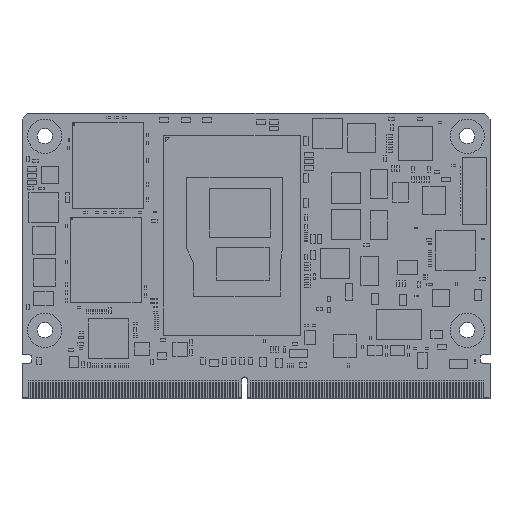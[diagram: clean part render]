
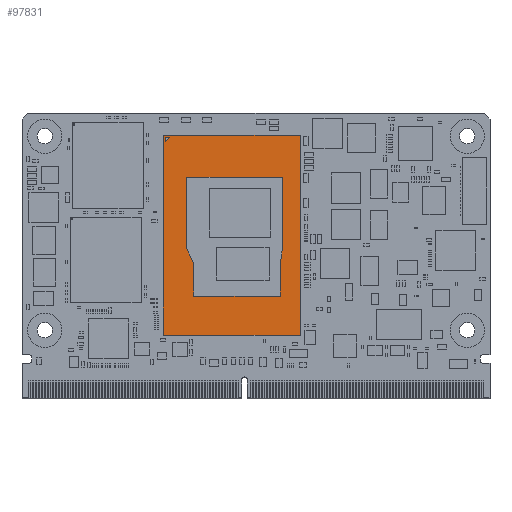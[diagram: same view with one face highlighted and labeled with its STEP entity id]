
A CAD part, top view. The second image highlights one B-rep face of the part: STEP entity #97831.
In plain terms, the highlighted planar face has unit normal (0, 0, 1) as drawn and (0, 1, 0) by its records, which use the part's own axes.
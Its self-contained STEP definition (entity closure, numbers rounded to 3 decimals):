
#458 = VERTEX_POINT ( 'NONE', #76636 ) ;
#10595 = EDGE_CURVE ( 'NONE', #97570, #41177, #155508, .T. ) ;
#10703 = EDGE_LOOP ( 'NONE', ( #120518, #141115, #51080, #103640 ) ) ;
#11290 = DIRECTION ( 'NONE',  ( 0., 1., 0. ) ) ;
#12118 = DIRECTION ( 'NONE',  ( 1., 0., 0. ) ) ;
#18675 = CARTESIAN_POINT ( 'NONE',  ( 0., 1.081, 17.5 ) ) ;
#19777 = VECTOR ( 'NONE', #78631, 1000. ) ;
#20832 = VERTEX_POINT ( 'NONE', #174696 ) ;
#35604 = DIRECTION ( 'NONE',  ( 0., 0., -1. ) ) ;
#35785 = EDGE_CURVE ( 'NONE', #89963, #146432, #194468, .T. ) ;
#36066 = ORIENTED_EDGE ( 'NONE', *, *, #72596, .F. ) ;
#41177 = VERTEX_POINT ( 'NONE', #76647 ) ;
#46940 = CARTESIAN_POINT ( 'NONE',  ( 11.7, 1.081, 17.2 ) ) ;
#49096 = CARTESIAN_POINT ( 'NONE',  ( 11.7, 1.081, 16.45 ) ) ;
#51080 = ORIENTED_EDGE ( 'NONE', *, *, #10595, .T. ) ;
#51876 = CARTESIAN_POINT ( 'NONE',  ( -12., 1.081, 17.5 ) ) ;
#54273 = DIRECTION ( 'NONE',  ( -1., 0., 0. ) ) ;
#54393 = VECTOR ( 'NONE', #109602, 1000. ) ;
#54915 = CARTESIAN_POINT ( 'NONE',  ( -12., 1.081, 0. ) ) ;
#56054 = CARTESIAN_POINT ( 'NONE',  ( 10.95, 1.081, 17.2 ) ) ;
#62989 = VECTOR ( 'NONE', #12118, 1000. ) ;
#63224 = VECTOR ( 'NONE', #35604, 1000. ) ;
#69228 = AXIS2_PLACEMENT_3D ( 'NONE', #252320, #11290, #148126 ) ;
#70486 = LINE ( 'NONE', #56054, #54393 ) ;
#71218 = FACE_BOUND ( 'NONE', #201128, .T. ) ;
#72596 = EDGE_CURVE ( 'NONE', #146432, #20832, #153274, .T. ) ;
#73588 = EDGE_CURVE ( 'NONE', #458, #129087, #216428, .T. ) ;
#76636 = CARTESIAN_POINT ( 'NONE',  ( -12., 1.081, -17.5 ) ) ;
#76647 = CARTESIAN_POINT ( 'NONE',  ( 12., 1.081, -17.5 ) ) ;
#78631 = DIRECTION ( 'NONE',  ( 1., 0., 0. ) ) ;
#89963 = VERTEX_POINT ( 'NONE', #122498 ) ;
#90325 = CARTESIAN_POINT ( 'NONE',  ( 11.7, 1.081, 17.2 ) ) ;
#90860 = LINE ( 'NONE', #167764, #170730 ) ;
#97570 = VERTEX_POINT ( 'NONE', #196531 ) ;
#97831 = ADVANCED_FACE ( 'NONE', ( #109039, #71218 ), #191091, .T. ) ;
#98371 = EDGE_CURVE ( 'NONE', #129087, #97570, #233729, .T. ) ;
#103640 = ORIENTED_EDGE ( 'NONE', *, *, #106396, .T. ) ;
#106396 = EDGE_CURVE ( 'NONE', #41177, #458, #90860, .T. ) ;
#109039 = FACE_OUTER_BOUND ( 'NONE', #10703, .T. ) ;
#109602 = DIRECTION ( 'NONE',  ( -0.707, 0., 0.707 ) ) ;
#120518 = ORIENTED_EDGE ( 'NONE', *, *, #73588, .T. ) ;
#122498 = CARTESIAN_POINT ( 'NONE',  ( 10.95, 1.081, 17.2 ) ) ;
#129087 = VERTEX_POINT ( 'NONE', #51876 ) ;
#141115 = ORIENTED_EDGE ( 'NONE', *, *, #98371, .T. ) ;
#146432 = VERTEX_POINT ( 'NONE', #46940 ) ;
#148003 = ORIENTED_EDGE ( 'NONE', *, *, #35785, .F. ) ;
#148126 = DIRECTION ( 'NONE',  ( 0., 0., 1. ) ) ;
#153274 = LINE ( 'NONE', #49096, #192597 ) ;
#155508 = LINE ( 'NONE', #195891, #63224 ) ;
#167764 = CARTESIAN_POINT ( 'NONE',  ( 0., 1.081, -17.5 ) ) ;
#170730 = VECTOR ( 'NONE', #54273, 1000. ) ;
#174696 = CARTESIAN_POINT ( 'NONE',  ( 11.7, 1.081, 16.45 ) ) ;
#191091 = PLANE ( 'NONE',  #69228 ) ;
#192597 = VECTOR ( 'NONE', #252321, 1000. ) ;
#193831 = EDGE_CURVE ( 'NONE', #20832, #89963, #70486, .T. ) ;
#194468 = LINE ( 'NONE', #90325, #62989 ) ;
#195891 = CARTESIAN_POINT ( 'NONE',  ( 12., 1.081, 0. ) ) ;
#196531 = CARTESIAN_POINT ( 'NONE',  ( 12., 1.081, 17.5 ) ) ;
#201128 = EDGE_LOOP ( 'NONE', ( #148003, #213897, #36066 ) ) ;
#213763 = VECTOR ( 'NONE', #251744, 1000. ) ;
#213897 = ORIENTED_EDGE ( 'NONE', *, *, #193831, .F. ) ;
#216428 = LINE ( 'NONE', #54915, #213763 ) ;
#233729 = LINE ( 'NONE', #18675, #19777 ) ;
#251744 = DIRECTION ( 'NONE',  ( 0., 0., 1. ) ) ;
#252320 = CARTESIAN_POINT ( 'NONE',  ( 0., 1.081, 0. ) ) ;
#252321 = DIRECTION ( 'NONE',  ( 0., 0., -1. ) ) ;
